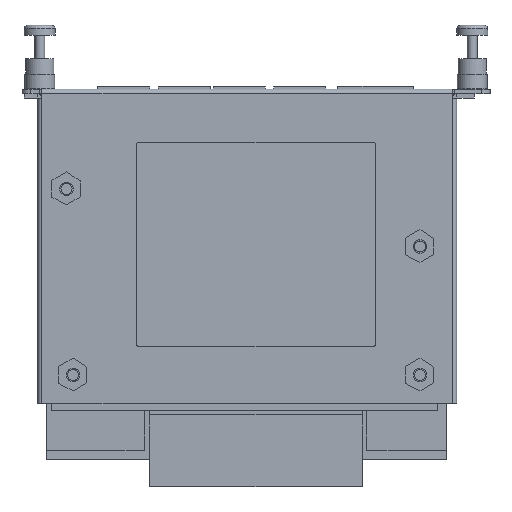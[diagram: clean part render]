
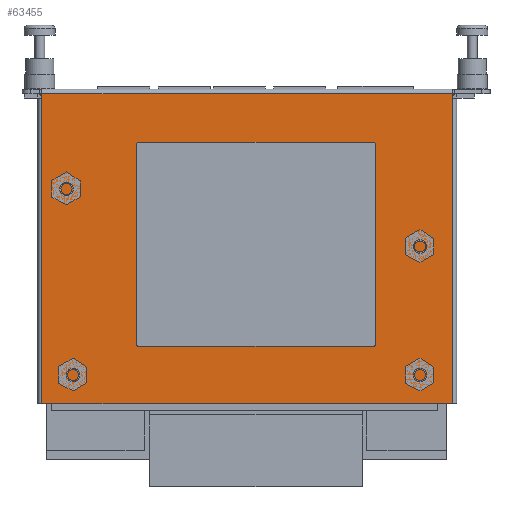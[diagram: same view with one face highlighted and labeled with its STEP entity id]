
A CAD part, front view. The second image highlights one B-rep face of the part: STEP entity #63455.
In plain terms, the highlighted planar face has unit normal (0, -1, 0).
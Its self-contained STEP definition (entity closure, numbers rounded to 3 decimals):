
#61624=DIRECTION('',(0.,0.,1.));
#61625=VECTOR('',#61624,1.);
#61626=CARTESIAN_POINT('',(-48.3,-20.9,-2.));
#61627=LINE('',#61626,#61625);
#61854=DIRECTION('',(1.,0.,0.));
#61855=VECTOR('',#61854,92.6);
#61856=CARTESIAN_POINT('',(-48.3,-20.9,-1.));
#61857=LINE('',#61856,#61855);
#61862=DIRECTION('',(1.,0.,0.));
#61863=VECTOR('',#61862,92.6);
#61864=CARTESIAN_POINT('',(-48.3,-20.9,-71.));
#61865=LINE('',#61864,#61863);
#61866=DIRECTION('',(0.,0.,1.));
#61867=VECTOR('',#61866,1.);
#61868=CARTESIAN_POINT('',(44.3,-20.9,-2.));
#61869=LINE('',#61868,#61867);
#61870=CARTESIAN_POINT('',(-26.5,-20.9,-57.5));
#61871=DIRECTION('',(0.,1.,0.));
#61872=DIRECTION('',(0.,0.,-1.));
#61873=AXIS2_PLACEMENT_3D('',#61870,#61871,#61872);
#61875=DIRECTION('',(-1.,0.,0.));
#61876=VECTOR('',#61875,53.);
#61877=CARTESIAN_POINT('',(26.5,-20.9,-58.));
#61878=LINE('',#61877,#61876);
#61879=CARTESIAN_POINT('',(26.5,-20.9,-57.5));
#61880=DIRECTION('',(0.,1.,0.));
#61881=DIRECTION('',(1.,0.,0.));
#61882=AXIS2_PLACEMENT_3D('',#61879,#61880,#61881);
#61884=DIRECTION('',(0.,0.,-1.));
#61885=VECTOR('',#61884,45.);
#61886=CARTESIAN_POINT('',(27.,-20.9,-12.5));
#61887=LINE('',#61886,#61885);
#61888=CARTESIAN_POINT('',(26.5,-20.9,-12.5));
#61889=DIRECTION('',(0.,1.,0.));
#61890=DIRECTION('',(0.,0.,1.));
#61891=AXIS2_PLACEMENT_3D('',#61888,#61889,#61890);
#61893=DIRECTION('',(1.,0.,0.));
#61894=VECTOR('',#61893,53.);
#61895=CARTESIAN_POINT('',(-26.5,-20.9,-12.));
#61896=LINE('',#61895,#61894);
#61897=CARTESIAN_POINT('',(-26.5,-20.9,-12.5));
#61898=DIRECTION('',(0.,1.,0.));
#61899=DIRECTION('',(-1.,0.,0.));
#61900=AXIS2_PLACEMENT_3D('',#61897,#61898,#61899);
#61902=DIRECTION('',(0.,0.,1.));
#61903=VECTOR('',#61902,45.);
#61904=CARTESIAN_POINT('',(-27.,-20.9,-57.5));
#61905=LINE('',#61904,#61903);
#62044=DIRECTION('',(0.,0.,-1.));
#62045=VECTOR('',#62044,69.);
#62046=CARTESIAN_POINT('',(44.3,-20.9,-2.));
#62047=LINE('',#62046,#62045);
#62065=DIRECTION('',(0.,0.,1.));
#62066=VECTOR('',#62065,69.);
#62067=CARTESIAN_POINT('',(-48.3,-20.9,-71.));
#62068=LINE('',#62067,#62066);
#62591=CARTESIAN_POINT('',(-48.3,-20.9,-1.));
#62592=VERTEX_POINT('',#62591);
#62593=CARTESIAN_POINT('',(-48.3,-20.9,-2.));
#62594=VERTEX_POINT('',#62593);
#62611=CARTESIAN_POINT('',(44.3,-20.9,-1.));
#62612=VERTEX_POINT('',#62611);
#62613=CARTESIAN_POINT('',(44.3,-20.9,-2.));
#62614=VERTEX_POINT('',#62613);
#62673=CARTESIAN_POINT('',(44.3,-20.9,-71.));
#62674=VERTEX_POINT('',#62673);
#62675=CARTESIAN_POINT('',(-48.3,-20.9,-71.));
#62676=VERTEX_POINT('',#62675);
#62727=CARTESIAN_POINT('',(-26.5,-20.9,-58.));
#62728=CARTESIAN_POINT('',(-27.,-20.9,-57.5));
#62729=VERTEX_POINT('',#62727);
#62730=VERTEX_POINT('',#62728);
#62747=CARTESIAN_POINT('',(-27.,-20.9,-12.5));
#62748=VERTEX_POINT('',#62747);
#62749=CARTESIAN_POINT('',(26.5,-20.9,-58.));
#62750=VERTEX_POINT('',#62749);
#62753=CARTESIAN_POINT('',(-26.5,-20.9,-12.));
#62754=VERTEX_POINT('',#62753);
#62755=CARTESIAN_POINT('',(27.,-20.9,-57.5));
#62756=VERTEX_POINT('',#62755);
#62761=CARTESIAN_POINT('',(26.5,-20.9,-12.));
#62762=VERTEX_POINT('',#62761);
#62765=CARTESIAN_POINT('',(27.,-20.9,-12.5));
#62766=VERTEX_POINT('',#62765);
#63421=CARTESIAN_POINT('',(44.8,-20.9,-1.));
#63422=DIRECTION('',(0.,1.,0.));
#63423=DIRECTION('',(1.,0.,0.));
#63424=AXIS2_PLACEMENT_3D('',#63421,#63422,#63423);
#63425=PLANE('',#63424);
#63427=ORIENTED_EDGE('',*,*,#63426,.F.);
#63429=ORIENTED_EDGE('',*,*,#63428,.T.);
#63430=ORIENTED_EDGE('',*,*,#63050,.T.);
#63431=ORIENTED_EDGE('',*,*,#63414,.T.);
#63432=ORIENTED_EDGE('',*,*,#63313,.F.);
#63434=ORIENTED_EDGE('',*,*,#63433,.T.);
#63435=EDGE_LOOP('',(#63427,#63429,#63430,#63431,#63432,#63434));
#63436=FACE_OUTER_BOUND('',#63435,.F.);
#63438=ORIENTED_EDGE('',*,*,#63437,.F.);
#63440=ORIENTED_EDGE('',*,*,#63439,.F.);
#63442=ORIENTED_EDGE('',*,*,#63441,.F.);
#63444=ORIENTED_EDGE('',*,*,#63443,.F.);
#63446=ORIENTED_EDGE('',*,*,#63445,.F.);
#63448=ORIENTED_EDGE('',*,*,#63447,.F.);
#63450=ORIENTED_EDGE('',*,*,#63449,.F.);
#63452=ORIENTED_EDGE('',*,*,#63451,.F.);
#63453=EDGE_LOOP('',(#63438,#63440,#63442,#63444,#63446,#63448,#63450,#63452));
#63454=FACE_BOUND('',#63453,.F.);
#63455=ADVANCED_FACE('',(#63436,#63454),#63425,.F.);
#61874=CIRCLE('',#61873,0.5);
#61883=CIRCLE('',#61882,0.5);
#61892=CIRCLE('',#61891,0.5);
#61901=CIRCLE('',#61900,0.5);
#63050=EDGE_CURVE('',#62594,#62592,#61627,.T.);
#63313=EDGE_CURVE('',#62614,#62612,#61869,.T.);
#63414=EDGE_CURVE('',#62592,#62612,#61857,.T.);
#63426=EDGE_CURVE('',#62676,#62674,#61865,.T.);
#63428=EDGE_CURVE('',#62676,#62594,#62068,.T.);
#63433=EDGE_CURVE('',#62614,#62674,#62047,.T.);
#63437=EDGE_CURVE('',#62729,#62730,#61874,.T.);
#63439=EDGE_CURVE('',#62750,#62729,#61878,.T.);
#63441=EDGE_CURVE('',#62756,#62750,#61883,.T.);
#63443=EDGE_CURVE('',#62766,#62756,#61887,.T.);
#63445=EDGE_CURVE('',#62762,#62766,#61892,.T.);
#63447=EDGE_CURVE('',#62754,#62762,#61896,.T.);
#63449=EDGE_CURVE('',#62748,#62754,#61901,.T.);
#63451=EDGE_CURVE('',#62730,#62748,#61905,.T.);
